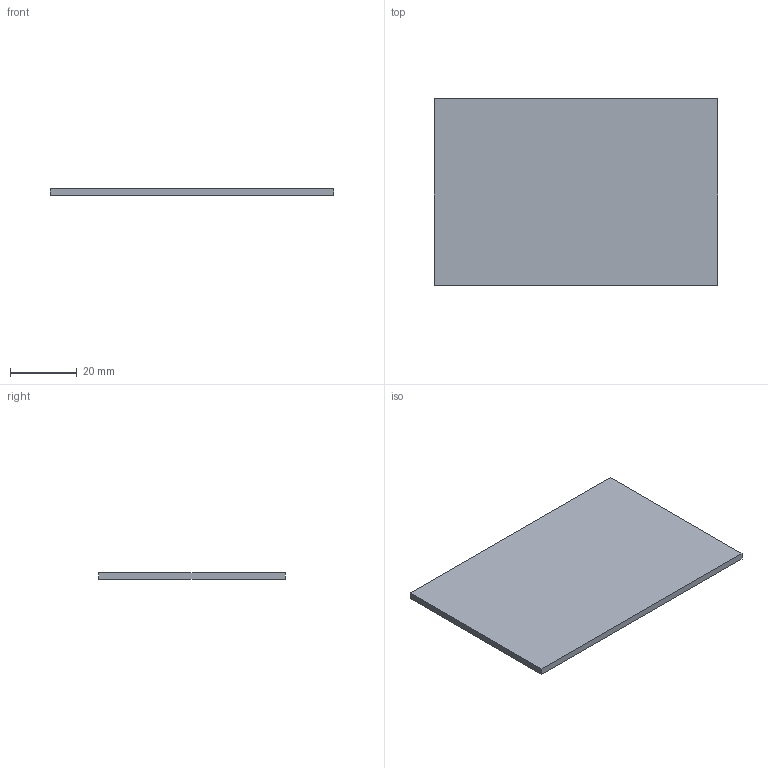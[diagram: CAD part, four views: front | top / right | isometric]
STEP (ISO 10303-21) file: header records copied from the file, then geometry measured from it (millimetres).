
FILE_DESCRIPTION(('Open CASCADE Model'),'2;1');
FILE_NAME('Open CASCADE Shape Model','2026-11-24T19:57:39',('Author'),( 'Open CASCADE'),'Open CASCADE STEP processor 7.8','Open CASCADE 7.8' ,'Unknown');
FILE_SCHEMA(('AUTOMOTIVE_DESIGN { 1 0 10303 214 1 1 1 1 }'));
Length unit declared in the file: millimetre
Products named in the file (1): Open CASCADE STEP translator 7.8 102
Bounding box: 85 x 56 x 2 mm (x, y, z)
Volume: 9520 mm3; surface area: 10084 mm2
Topology: 1 solids, 1 shells, 6 faces, 12 edges, 8 vertices
Faces by surface type: plane 6
Entity records: 322 total; most frequent: CARTESIAN_POINT 51, DIRECTION 50, LINE 36, VECTOR 36, ORIENTED_EDGE 24, PCURVE 24, DEFINITIONAL_REPRESENTATION 24, EDGE_CURVE 12
